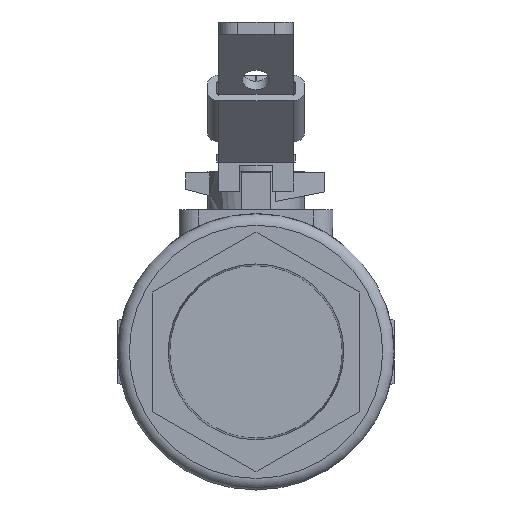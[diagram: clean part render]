
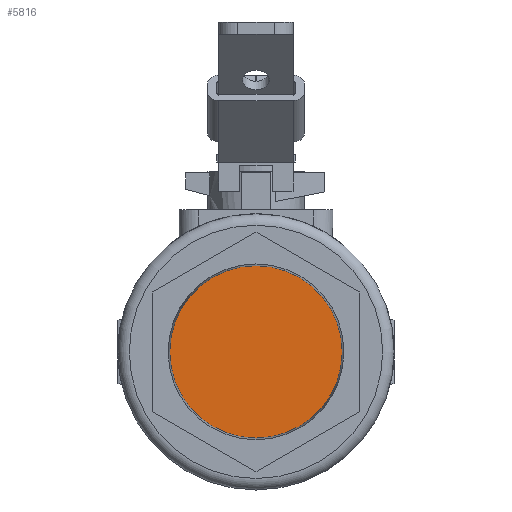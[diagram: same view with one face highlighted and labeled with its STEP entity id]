
A CAD part, left-side view. The second image highlights one B-rep face of the part: STEP entity #5816.
In plain terms, the highlighted free-form (B-spline) face has degree [1, 1] with [2, 2] control points.
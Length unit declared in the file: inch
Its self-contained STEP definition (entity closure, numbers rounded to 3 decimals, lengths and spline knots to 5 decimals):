
#5800=CARTESIAN_POINT('',(0.6969,1.12636,1.12636));
#5801=CARTESIAN_POINT('',(0.6969,-1.12636,1.12636));
#5802=CARTESIAN_POINT('',(0.6969,1.12636,-1.12636));
#5803=CARTESIAN_POINT('',(0.6969,-1.12636,-1.12636));
#5804=B_SPLINE_SURFACE_WITH_KNOTS('',1,1,((#5800,#5802),(#5801,#5803)),.UNSPECIFIED.,.F.,.F.,.U.,(2,2),(2,2),(0.0,2.25272),(0.0,2.25272),.UNSPECIFIED.);
#5805=CARTESIAN_POINT('',(0.6969,1.12636,0.0));
#5806=VERTEX_POINT('',#5805);
#5807=CARTESIAN_POINT('',(0.6969,0.0,0.0));
#5808=DIRECTION('',(1.0,0.0,0.0));
#5809=DIRECTION('',(0.0,1.0,0.0));
#5810=AXIS2_PLACEMENT_3D('',#5807,#5808,#5809);
#5811=CIRCLE('',#5810,1.12636);
#5812=EDGE_CURVE('',#5806,#5806,#5811,.T.);
#5813=ORIENTED_EDGE('',*,*,#5812,.F.);
#5814=EDGE_LOOP('',(#5813));
#5815=FACE_OUTER_BOUND('',#5814,.T.);
#5816=ADVANCED_FACE('',(#5815),#5804,.F.);
